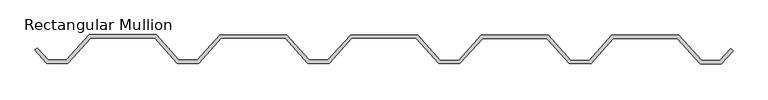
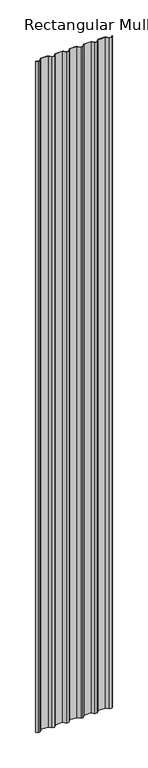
"""IFC4 building model written with IfcOpenShell, lengths in millimetres: member geometry, Rectangular Mullion : Telha Metálica - Trapezoidal."""

from ifc_helpers import new_model, si_unit, frame, origin, place, context, project, spatial, polyline, outline, extrude, source, transform, mapped, element, save


def rectangular_mullion_d9d28a80(model_context):
    return source(origin(), model_context, "Body", "SweptSolid", [
        extrude(outline(polyline([(440.066155, 75.6159987), (344.0661915, 75.6997745), (310.0330432, 37.7294595), (278.0330554, 37.7573848), (244.0662296, 75.7870409), (148.0662661, 75.8708167), (114.0331178, 37.9005018), (82.03313, 37.928427), (48.0663042, 75.9580832), (-47.9336592, 76.041859), (-81.9668075, 38.071544), (-113.9667953, 38.0994693), (-147.9336211, 76.1291254), (-243.9335846, 76.2129012), (-277.9667329, 38.2425863), (-309.9667207, 38.2705115), (-343.9335465, 76.3001677), (-439.93351, 76.3839434), (-473.9666583, 38.4136285), (-505.9666461, 38.4415538), (-523.4905169, 58.0614849), (-519.9464424, 61.5993792), (-503.7267316, 43.439601), (-476.1978461, 43.4155775), (-442.1646978, 81.3858924), (-341.693632, 81.2982149), (-307.7268062, 43.2685587), (-280.1979207, 43.2445352), (-246.1647724, 81.2148502), (-145.6937067, 81.1271726), (-111.7268809, 43.0975165), (-84.1979953, 43.073493), (-50.164847, 81.0438079), (50.3062187, 80.9561304), (84.2730445, 42.9264742), (111.80193, 42.9024508), (145.8350783, 80.8727657), (246.3061441, 80.7850881), (280.2729699, 42.755432), (307.8018554, 42.7314085), (341.8350037, 80.7017235), (442.3060694, 80.6140459), (476.2728952, 42.5843898), (503.8017808, 42.5603663), (520.072301, 60.7131616), (523.6101953, 57.1690871), (506.0329686, 37.5584173), (474.0329808, 37.5863426), (440.066155, 75.6159987)])), frame((0.0, 0.0, -9686.6583917), z_axis=(0.0, 0.0, 1.0), x_axis=(1.0, 0.0, 0.0)), (0.0, 0.0, 1.0), 9686.6583917),
    ])


if __name__ == "__main__":
    model = new_model("IFC4")
    model_context = context("Model", 3, world=origin())
    ifc_project = project(units=[si_unit("LENGTHUNIT", "METRE", prefix="MILLI")], contexts=[model_context])
    site = spatial("IfcSite", under=ifc_project)
    building = spatial("IfcBuilding", under=site)
    placement = place(None, origin())
    rectangular_mullion_shape = rectangular_mullion_d9d28a80(model_context)
    element("IfcMember", 1, ObjectType="Rectangular Mullion : Telha Metálica - Trapezoidal", at=placement, inside=building, context=model_context, shape_type="MappedRepresentation", body=[
        mapped(rectangular_mullion_shape, transform((0.0, 0.0, 0.0), x_axis=(1.0, 0.0, 0.0), y_axis=(0.0, 1.0, 0.0), z_axis=(0.0, 0.0, 1.0))),
    ])
    save(model, "model.ifc")
